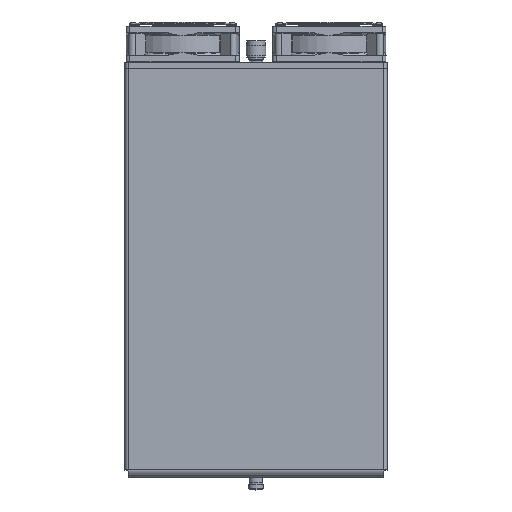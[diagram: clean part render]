
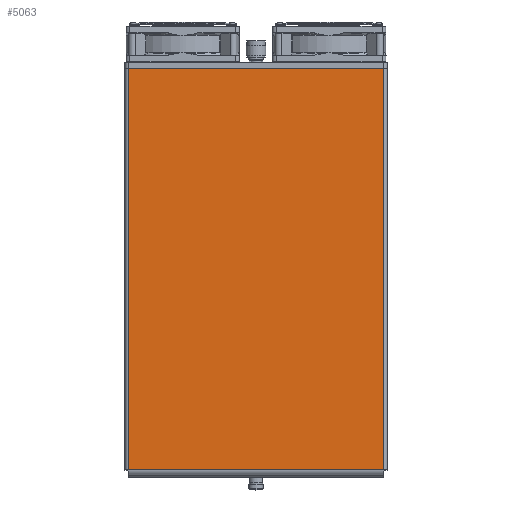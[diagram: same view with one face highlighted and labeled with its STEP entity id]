
A CAD part, top view. The second image highlights one B-rep face of the part: STEP entity #5063.
In plain terms, the highlighted planar face has unit normal (0, 0, 1).
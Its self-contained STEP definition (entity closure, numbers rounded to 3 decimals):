
#5063=ADVANCED_FACE('',(#21011),#21013,.T.);
#21011=FACE_BOUND('',#21012,.T.);
#21012=EDGE_LOOP('',(#38546,#38547,#38548,#38549));
#21013=PLANE('',#21014);
#21014=AXIS2_PLACEMENT_3D('',#21015,#21016,#21017);
#21015=CARTESIAN_POINT('',(0.,0.,121.5));
#21016=DIRECTION('',(0.,0.,1.));
#21017=DIRECTION('',(0.,-1.,0.));
#38546=ORIENTED_EDGE('',*,*,#46936,.T.);
#38547=ORIENTED_EDGE('',*,*,#46947,.T.);
#38548=ORIENTED_EDGE('',*,*,#46948,.T.);
#38549=ORIENTED_EDGE('',*,*,#46949,.T.);
#46936=EDGE_CURVE('',#52029,#52027,#52030,.T.);
#46947=EDGE_CURVE('',#52027,#52046,#52047,.T.);
#46948=EDGE_CURVE('',#52046,#52048,#52049,.T.);
#46949=EDGE_CURVE('',#52048,#52029,#52050,.T.);
#52027=VERTEX_POINT('',#61370);
#52029=VERTEX_POINT('',#61375);
#52030=LINE('',#61376,#61377);
#52046=VERTEX_POINT('',#61416);
#52047=LINE('',#61417,#61418);
#52048=VERTEX_POINT('',#61420);
#52049=LINE('',#61421,#61422);
#52050=LINE('',#61424,#61425);
#61370=CARTESIAN_POINT('',(135.,212.5,121.5));
#61375=CARTESIAN_POINT('',(135.,-212.5,121.5));
#61376=CARTESIAN_POINT('',(135.,-212.5,121.5));
#61377=VECTOR('',#61378,1.);
#61378=DIRECTION('',(0.,1.,0.));
#61416=CARTESIAN_POINT('',(-135.,212.5,121.5));
#61417=CARTESIAN_POINT('',(135.,212.5,121.5));
#61418=VECTOR('',#61419,1.);
#61419=DIRECTION('',(-1.,0.,0.));
#61420=CARTESIAN_POINT('',(-135.,-212.5,121.5));
#61421=CARTESIAN_POINT('',(-135.,212.5,121.5));
#61422=VECTOR('',#61423,1.);
#61423=DIRECTION('',(0.,-1.,0.));
#61424=CARTESIAN_POINT('',(-135.,-212.5,121.5));
#61425=VECTOR('',#61426,1.);
#61426=DIRECTION('',(1.,0.,0.));
